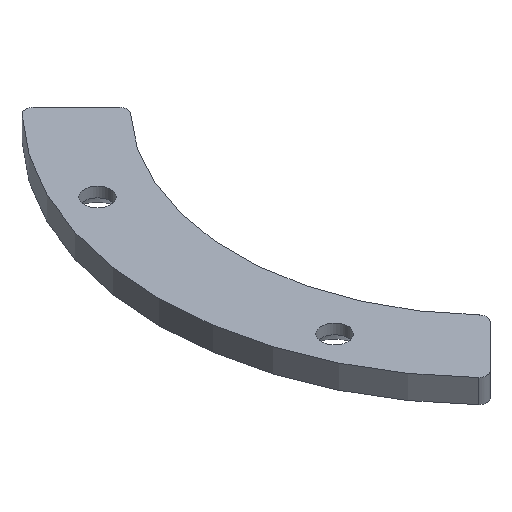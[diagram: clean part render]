
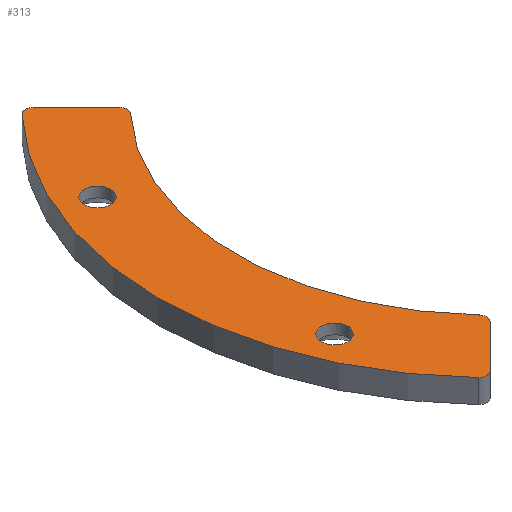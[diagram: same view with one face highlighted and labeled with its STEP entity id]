
A CAD part, isometric view. The second image highlights one B-rep face of the part: STEP entity #313.
In plain terms, the highlighted planar face has unit normal (0, 0, 1).
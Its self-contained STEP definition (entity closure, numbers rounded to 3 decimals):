
#107=PLANE('',#335);
#119=VECTOR('',#388,1.);
#120=VECTOR('',#396,1.);
#131=LINE('',#464,#119);
#132=LINE('',#471,#120);
#134=VERTEX_POINT('',#428);
#135=VERTEX_POINT('',#429);
#140=VERTEX_POINT('',#440);
#141=VERTEX_POINT('',#442);
#144=VERTEX_POINT('',#449);
#145=VERTEX_POINT('',#451);
#146=VERTEX_POINT('',#455);
#147=VERTEX_POINT('',#456);
#150=VERTEX_POINT('',#467);
#151=VERTEX_POINT('',#469);
#156=CIRCLE('',#323,1.);
#159=CIRCLE('',#327,1.);
#161=CIRCLE('',#330,1.);
#162=CIRCLE('',#332,1.);
#164=CIRCLE('',#336,1.7);
#165=CIRCLE('',#337,1.7);
#166=CIRCLE('',#338,42.3);
#167=CIRCLE('',#339,32.5);
#174=EDGE_CURVE('',#134,#135,#156,.T.);
#180=EDGE_CURVE('',#140,#141,#159,.T.);
#184=EDGE_CURVE('',#144,#145,#161,.T.);
#186=EDGE_CURVE('',#146,#147,#162,.T.);
#191=EDGE_CURVE('',#134,#141,#131,.T.);
#192=EDGE_CURVE('',#150,#150,#164,.T.);
#193=EDGE_CURVE('',#151,#151,#165,.T.);
#194=EDGE_CURVE('',#147,#140,#166,.T.);
#195=EDGE_CURVE('',#146,#145,#132,.T.);
#196=EDGE_CURVE('',#135,#144,#167,.T.);
#224=ORIENTED_EDGE('',*,*,#192,.T.);
#225=ORIENTED_EDGE('',*,*,#193,.T.);
#226=ORIENTED_EDGE('',*,*,#174,.F.);
#227=ORIENTED_EDGE('',*,*,#191,.T.);
#228=ORIENTED_EDGE('',*,*,#180,.F.);
#229=ORIENTED_EDGE('',*,*,#194,.F.);
#230=ORIENTED_EDGE('',*,*,#186,.F.);
#231=ORIENTED_EDGE('',*,*,#195,.T.);
#232=ORIENTED_EDGE('',*,*,#184,.F.);
#233=ORIENTED_EDGE('',*,*,#196,.F.);
#269=EDGE_LOOP('',(#224));
#270=EDGE_LOOP('',(#225));
#271=EDGE_LOOP('',(#226,#227,#228,#229,#230,#231,#232,#233));
#291=FACE_BOUND('',#269,.T.);
#292=FACE_BOUND('',#270,.T.);
#293=FACE_BOUND('',#271,.T.);
#313=ADVANCED_FACE('',(#291,#292,#293),#107,.T.);
#323=AXIS2_PLACEMENT_3D('',#427,#356,#357);
#327=AXIS2_PLACEMENT_3D('',#441,#367,#368);
#330=AXIS2_PLACEMENT_3D('',#450,#375,#376);
#332=AXIS2_PLACEMENT_3D('',#454,#380,#381);
#335=AXIS2_PLACEMENT_3D('',#465,#389,$);
#336=AXIS2_PLACEMENT_3D('',#466,#390,#391);
#337=AXIS2_PLACEMENT_3D('',#468,#392,#393);
#338=AXIS2_PLACEMENT_3D('',#470,#394,#395);
#339=AXIS2_PLACEMENT_3D('',#472,#397,#398);
#356=DIRECTION('',(0.,0.,-1.));
#357=DIRECTION('',(1.,0.015,0.));
#367=DIRECTION('',(0.,0.,-1.));
#368=DIRECTION('',(-0.012,1.,0.));
#375=DIRECTION('',(0.,0.,-1.));
#376=DIRECTION('',(1.,-0.015,0.));
#380=DIRECTION('',(0.,0.,-1.));
#381=DIRECTION('',(-0.012,-1.,0.));
#388=DIRECTION('',(-0.707,0.707,0.));
#389=DIRECTION('',(0.,0.,1.));
#390=DIRECTION('',(0.,0.,-1.));
#391=DIRECTION('',(-1.7,0.,0.));
#392=DIRECTION('',(0.,0.,-1.));
#393=DIRECTION('',(-1.7,0.,0.));
#394=DIRECTION('',(0.,0.,-1.));
#395=DIRECTION('',(42.3,0.,0.));
#396=DIRECTION('',(0.707,0.707,0.));
#397=DIRECTION('',(0.,0.,1.));
#398=DIRECTION('',(32.5,0.,0.));
#427=CARTESIAN_POINT('',(-24.385,22.97,3.));
#428=CARTESIAN_POINT('',(-23.678,23.678,3.));
#429=CARTESIAN_POINT('',(-23.657,22.285,3.));
#440=CARTESIAN_POINT('',(-30.626,29.178,3.));
#441=CARTESIAN_POINT('',(-29.902,28.488,3.));
#442=CARTESIAN_POINT('',(-29.195,29.195,3.));
#449=CARTESIAN_POINT('',(-23.657,-22.285,3.));
#450=CARTESIAN_POINT('',(-24.385,-22.97,3.));
#451=CARTESIAN_POINT('',(-23.678,-23.678,3.));
#454=CARTESIAN_POINT('',(-29.902,-28.488,3.));
#455=CARTESIAN_POINT('',(-29.195,-29.195,3.));
#456=CARTESIAN_POINT('',(-30.626,-29.178,3.));
#464=CARTESIAN_POINT('',(-14.142,14.142,3.));
#465=CARTESIAN_POINT('',(0.,0.,3.));
#466=CARTESIAN_POINT('',(-35.,15.155,3.));
#467=CARTESIAN_POINT('',(-33.3,15.155,3.));
#468=CARTESIAN_POINT('',(-35.,-15.155,3.));
#469=CARTESIAN_POINT('',(-33.3,-15.155,3.));
#470=CARTESIAN_POINT('',(0.,0.,3.));
#471=CARTESIAN_POINT('',(-14.142,-14.142,3.));
#472=CARTESIAN_POINT('',(0.,0.,3.));
